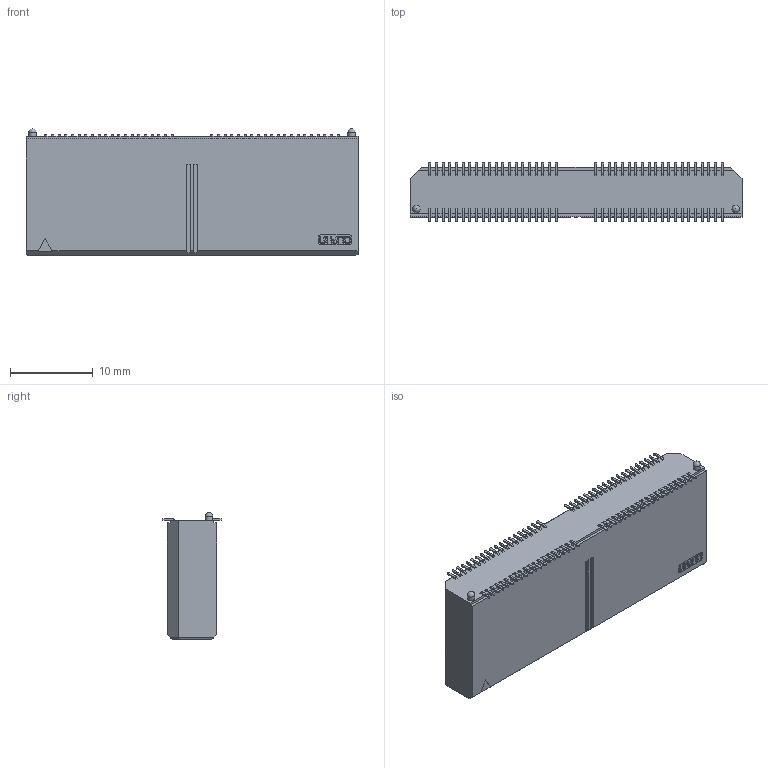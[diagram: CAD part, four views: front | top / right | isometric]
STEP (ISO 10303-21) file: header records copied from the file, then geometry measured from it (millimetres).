
FILE_DESCRIPTION (( 'STEP AP203' ), '1' );
FILE_NAME ('2337-80MC2DP1T-NEW.STEP', '2020-07-24T03:57:49', ( '' ), ( '' ), 'SwSTEP 2.0', 'SolidWorks 2011', '' );
FILE_SCHEMA (( 'CONFIG_CONTROL_DESIGN' ));
Length unit declared in the file: millimetre
Products named in the file (1): 2337-80MC2DP1T-NEW
Bounding box: 40.01 x 7.13 x 15.3 mm (x, y, z)
Volume: 2887 mm3; surface area: 2257.8 mm2
Topology: 1 solids, 1 shells, 1358 faces, 3842 edges, 2502 vertices
Faces by surface type: plane 1223, cylinder 133, sphere 2
Full cylindrical faces by diameter (mm): 0.89 x2
Entity records: 43089 total; most frequent: CARTESIAN_POINT 7691, ORIENTED_EDGE 7668, DIRECTION 6818, EDGE_CURVE 3834, VECTOR 3568, LINE 3568, VERTEX_POINT 2498, AXIS2_PLACEMENT_3D 1625
